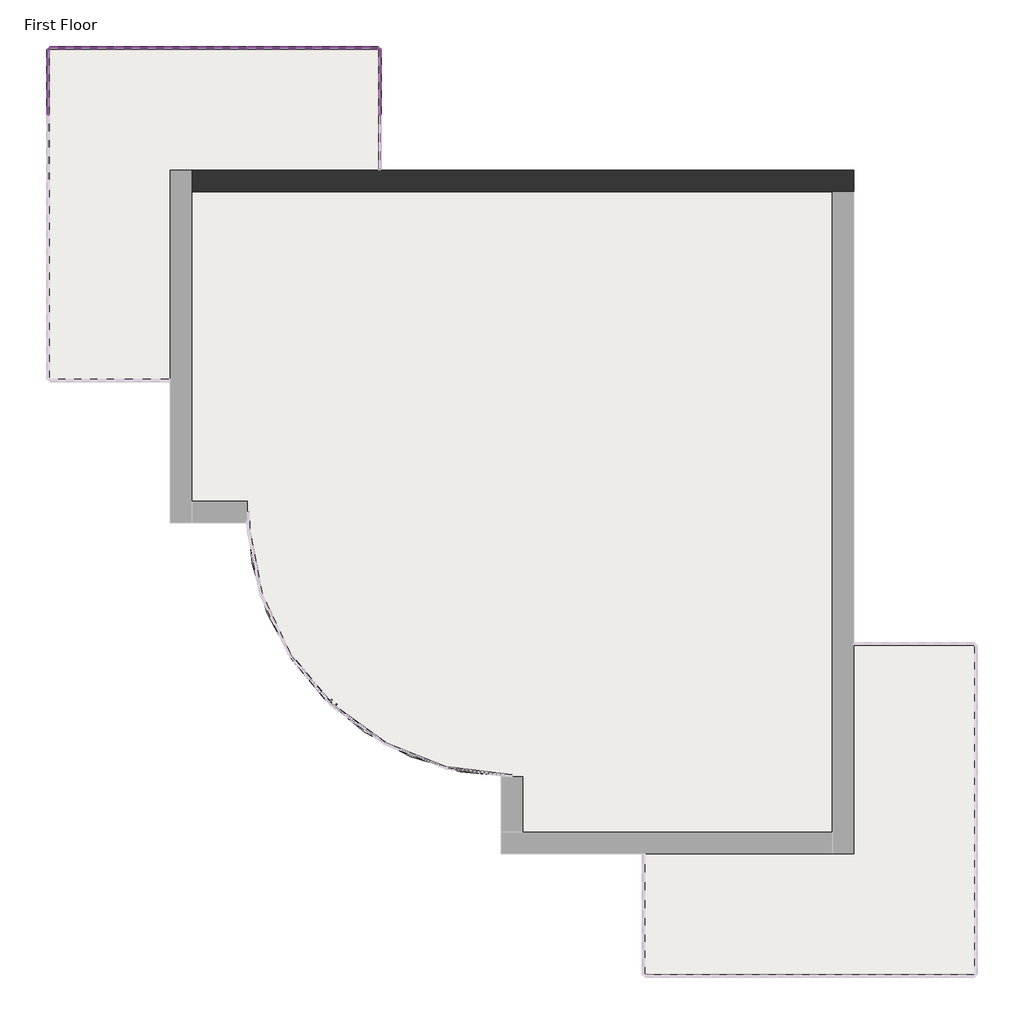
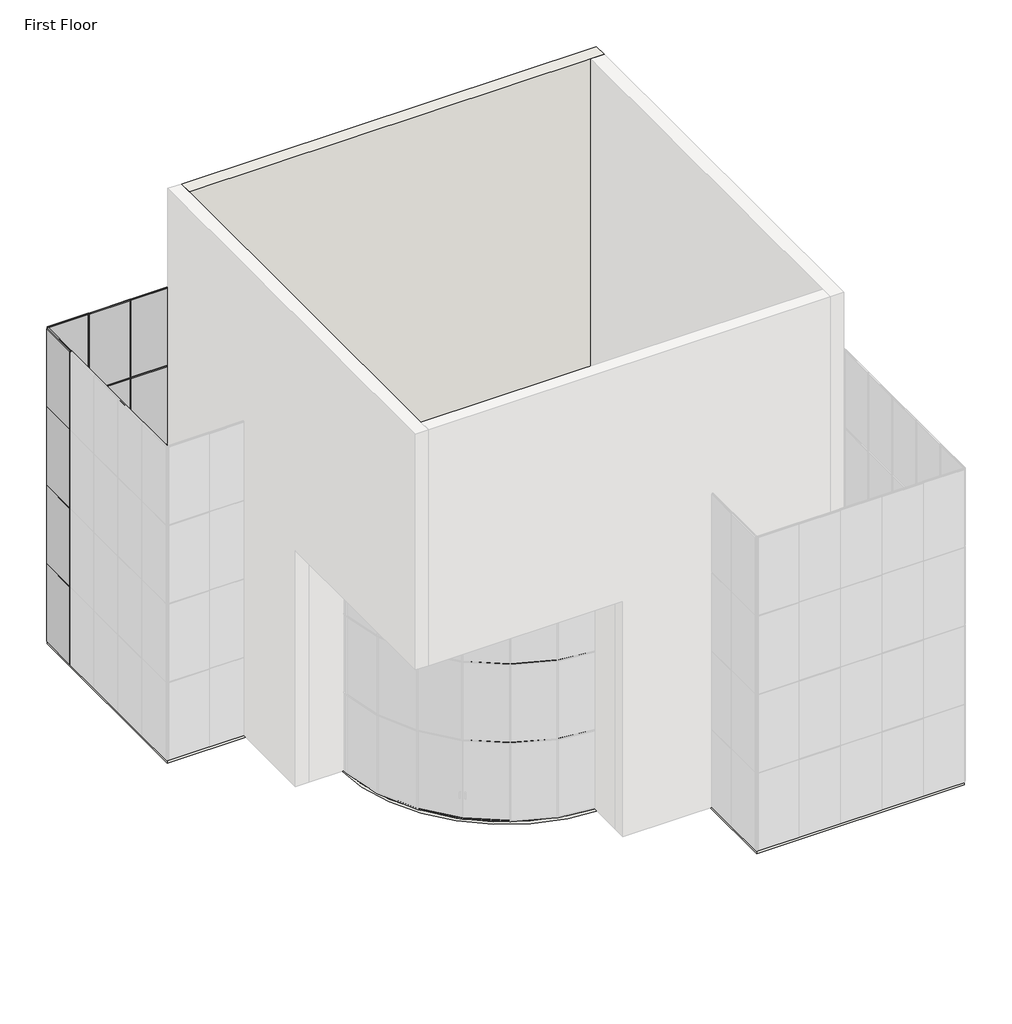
# One storey, part 4 of 4: 84 members, 28 plates, 4 slabs, 1 wall.
"""IFC4 building model written with IfcOpenShell, lengths in millimetres."""

from ifc_helpers import new_model, si_unit, point, frame, frame_2d, origin, place, context, project, spatial, polyline, circle_curve, trimmed, segment, composite_curve, outline, extrude, faceted_brep, transform, mapped, element, save
from components import member_5e617a80, member_74941792, member_cbdb9076, member_7e523723, member_9fd3d903, member_6604d1e0, member_e0356dda, member_be0b070d, system_panel_glazed_9b7d687a, system_panel_glazed_9a901b4a, system_panel_glazed_2d5e1d3d, system_panel_glazed_37964ea6

model = new_model("IFC4")

# Units and contexts
model_context = context("Model", 3, world=origin())
ifc_project = project(units=[si_unit("LENGTHUNIT", "METRE", prefix="MILLI")], contexts=[model_context])

# Site, building, storey
site = spatial("IfcSite", under=ifc_project)
building = spatial("IfcBuilding", under=site)
storey = spatial("IfcBuildingStorey", under=building, Name="First Floor", Elevation=0.0)

# Members
placement = place(None, origin())
member_shape = member_5e617a80(model_context)
element("IfcMember", 1, ObjectType="Rectangular Mullion : 1\" Square", at=placement, inside=storey, context=model_context, shape_type="MappedRepresentation", body=[
    mapped(member_shape, transform((-13139.1056157, 8470.7139224, 3048.0), x_axis=(0.0, 0.0, 1.0), y_axis=(-1.0, 0.0, 0.0), z_axis=(0.0, -1.0, 0.0))),
])
element("IfcMember", 2, ObjectType="Rectangular Mullion : 1\" Square", at=placement, inside=storey, context=model_context, shape_type="MappedRepresentation", body=[
    mapped(member_shape, transform((-13139.1056157, 8470.7139224, 6096.0), x_axis=(0.0, 0.0, 1.0), y_axis=(-1.0, 0.0, 0.0), z_axis=(0.0, -1.0, 0.0))),
])
element("IfcMember", 3, ObjectType="Rectangular Mullion : 1\" Square", at=placement, inside=storey, context=model_context, shape_type="MappedRepresentation", body=[
    mapped(member_shape, transform((-13139.1056157, 8470.7139224, 9144.0), x_axis=(0.0, 0.0, 1.0), y_axis=(-1.0, 0.0, 0.0), z_axis=(0.0, -1.0, 0.0))),
])
element("IfcMember", 4, ObjectType="Rectangular Mullion : 1\" Square", at=placement, inside=storey, context=model_context, shape_type="MappedRepresentation", body=[
    mapped(member_shape, transform((-7030.4056157, 9982.0139224, 3048.0), x_axis=(0.0, 0.0, 1.0), y_axis=(0.0, 1.0, 0.0), z_axis=(-0.9999999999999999, 0.0, 0.0))),
])
element("IfcMember", 5, ObjectType="Rectangular Mullion : 1\" Square", at=placement, inside=storey, context=model_context, shape_type="MappedRepresentation", body=[
    mapped(member_shape, transform((-13113.7056157, 9982.0139224, 3048.0), x_axis=(0.0, 0.0, 1.0), y_axis=(0.0, 1.0, 0.0), z_axis=(-1.0, 0.0, 0.0))),
])
element("IfcMember", 6, ObjectType="Rectangular Mullion : 1\" Square", at=placement, inside=storey, context=model_context, shape_type="MappedRepresentation", body=[
    mapped(member_shape, transform((-7030.4056157, 9982.0139224, 6096.0), x_axis=(0.0, 0.0, 1.0), y_axis=(0.0, 1.0, 0.0), z_axis=(-0.9999999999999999, 0.0, 0.0))),
])
element("IfcMember", 7, ObjectType="Rectangular Mullion : 1\" Square", at=placement, inside=storey, context=model_context, shape_type="MappedRepresentation", body=[
    mapped(member_shape, transform((-13113.7056157, 9982.0139224, 6096.0), x_axis=(0.0, 0.0, 1.0), y_axis=(0.0, 1.0, 0.0), z_axis=(-1.0, 0.0, 0.0))),
])
element("IfcMember", 8, ObjectType="Rectangular Mullion : 1\" Square", at=placement, inside=storey, context=model_context, shape_type="MappedRepresentation", body=[
    mapped(member_shape, transform((-7030.4056157, 9982.0139224, 9144.0), x_axis=(0.0, 0.0, 1.0), y_axis=(0.0, 1.0, 0.0), z_axis=(-0.9999999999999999, 0.0, 0.0))),
])
element("IfcMember", 9, ObjectType="Rectangular Mullion : 1\" Square", at=placement, inside=storey, context=model_context, shape_type="MappedRepresentation", body=[
    mapped(member_shape, transform((-13113.7056157, 9982.0139224, 9144.0), x_axis=(0.0, 0.0, 1.0), y_axis=(0.0, 1.0, 0.0), z_axis=(-1.0, 0.0, 0.0))),
])
member_2_shape = member_74941792(model_context)
element("IfcMember", 10, ObjectType="Rectangular Mullion : 1\" Square", at=placement, inside=storey, context=model_context, shape_type="MappedRepresentation", body=[
    mapped(member_2_shape, transform((-13139.1056157, 8470.7139224, 12192.0), x_axis=(0.0, 0.0, 1.0), y_axis=(-1.0, 0.0, 0.0), z_axis=(0.0, -1.0, 0.0))),
])
element("IfcMember", 11, ObjectType="Rectangular Mullion : 1\" Square", at=placement, inside=storey, context=model_context, shape_type="MappedRepresentation", body=[
    mapped(member_2_shape, transform((-13113.7056157, 9982.0139224, 12192.0), x_axis=(0.0, 0.0, 1.0), y_axis=(0.0, 1.0, 0.0), z_axis=(-1.0, 0.0, 0.0))),
])
element("IfcMember", 12, ObjectType="Rectangular Mullion : 1\" Square", at=placement, inside=storey, context=model_context, shape_type="MappedRepresentation", body=[
    mapped(member_2_shape, transform((-7030.4056157, 9982.0139224, 12192.0), x_axis=(0.0, 0.0, 1.0), y_axis=(0.0, 1.0, 0.0), z_axis=(-0.9999999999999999, 0.0, 0.0))),
])
member_3_shape = member_cbdb9076(model_context)
element("IfcMember", 13, ObjectType="Rectangular Mullion : 1\" Square", at=placement, inside=storey, context=model_context, shape_type="MappedRepresentation", body=[
    mapped(member_3_shape, transform((-13139.1056157, 8458.0139224, 3048.0), x_axis=(0.0, -1.0, 0.0), y_axis=(-1.0, 0.0, 0.0), z_axis=(0.0, 0.0, -1.0))),
])
element("IfcMember", 14, ObjectType="Rectangular Mullion : 1\" Square", at=placement, inside=storey, context=model_context, shape_type="MappedRepresentation", body=[
    mapped(member_3_shape, transform((-13139.1056157, 8458.0139224, 6096.0), x_axis=(0.0, -1.0, 0.0), y_axis=(-1.0, 0.0, 0.0), z_axis=(0.0, 0.0, -1.0))),
])
element("IfcMember", 15, ObjectType="Rectangular Mullion : 1\" Square", at=placement, inside=storey, context=model_context, shape_type="MappedRepresentation", body=[
    mapped(member_3_shape, transform((-8567.1056157, 9982.0139224, 6096.0), x_axis=(-1.0, 0.0, 0.0), y_axis=(0.0, 1.0, 0.0), z_axis=(0.0, 0.0, -1.0))),
])
element("IfcMember", 16, ObjectType="Rectangular Mullion : 1\" Square", at=placement, inside=storey, context=model_context, shape_type="MappedRepresentation", body=[
    mapped(member_3_shape, transform((-10091.1056157, 9982.0139224, 3048.0), x_axis=(-1.0, 0.0, 0.0), y_axis=(0.0, 1.0, 0.0), z_axis=(0.0, 0.0, -1.0))),
])
element("IfcMember", 17, ObjectType="Rectangular Mullion : 1\" Square", at=placement, inside=storey, context=model_context, shape_type="MappedRepresentation", body=[
    mapped(member_3_shape, transform((-10091.1056157, 9982.0139224, 6096.0), x_axis=(-1.0, 0.0, 0.0), y_axis=(0.0, 1.0, 0.0), z_axis=(0.0, 0.0, -1.0))),
])
element("IfcMember", 18, ObjectType="Rectangular Mullion : 1\" Square", at=placement, inside=storey, context=model_context, shape_type="MappedRepresentation", body=[
    mapped(member_3_shape, transform((-11615.1056157, 9982.0139224, 3048.0), x_axis=(-1.0, 0.0, 0.0), y_axis=(0.0, 1.0, 0.0), z_axis=(0.0, 0.0, -1.0))),
])
element("IfcMember", 19, ObjectType="Rectangular Mullion : 1\" Square", at=placement, inside=storey, context=model_context, shape_type="MappedRepresentation", body=[
    mapped(member_3_shape, transform((-11615.1056157, 9982.0139224, 6096.0), x_axis=(-1.0, 0.0, 0.0), y_axis=(0.0, 1.0, 0.0), z_axis=(0.0, 0.0, -1.0))),
])
element("IfcMember", 20, ObjectType="Rectangular Mullion : 1\" Square", at=placement, inside=storey, context=model_context, shape_type="MappedRepresentation", body=[
    mapped(member_3_shape, transform((-7043.1056157, 9982.0139224, 3048.0), x_axis=(-1.0, 0.0, 0.0), y_axis=(0.0, 1.0, 0.0), z_axis=(0.0, 0.0, -1.0))),
])
element("IfcMember", 21, ObjectType="Rectangular Mullion : 1\" Square", at=placement, inside=storey, context=model_context, shape_type="MappedRepresentation", body=[
    mapped(member_3_shape, transform((-7043.1056157, 9982.0139224, 6096.0), x_axis=(-1.0, 0.0, 0.0), y_axis=(0.0, 1.0, 0.0), z_axis=(0.0, 0.0, -1.0))),
])
element("IfcMember", 22, ObjectType="Rectangular Mullion : 1\" Square", at=placement, inside=storey, context=model_context, shape_type="MappedRepresentation", body=[
    mapped(member_3_shape, transform((-8567.1056157, 9982.0139224, 3048.0), x_axis=(-1.0, 0.0, 0.0), y_axis=(0.0, 1.0, 0.0), z_axis=(0.0, 0.0, -1.0))),
])
element("IfcMember", 23, ObjectType="Rectangular Mullion : 1\" Square", at=placement, inside=storey, context=model_context, shape_type="MappedRepresentation", body=[
    mapped(member_3_shape, transform((-5519.1056157, 9978.8389224, 3048.0), x_axis=(0.0, 1.0, 0.0), y_axis=(1.0, 0.0, 0.0), z_axis=(0.0, 0.0, -1.0))),
])
element("IfcMember", 24, ObjectType="Rectangular Mullion : 1\" Square", at=placement, inside=storey, context=model_context, shape_type="MappedRepresentation", body=[
    mapped(member_3_shape, transform((-5519.1056157, 9978.8389224, 6096.0), x_axis=(0.0, 1.0, 0.0), y_axis=(1.0, 0.0, 0.0), z_axis=(0.0, 0.0, -1.0))),
])
element("IfcMember", 25, ObjectType="Rectangular Mullion : 1\" Square", at=placement, inside=storey, context=model_context, shape_type="MappedRepresentation", body=[
    mapped(member_3_shape, transform((-5519.1056157, 8454.8389224, 3048.0), x_axis=(0.0, 1.0, 0.0), y_axis=(1.0, 0.0, 0.0), z_axis=(0.0, 0.0, -1.0))),
])
element("IfcMember", 26, ObjectType="Rectangular Mullion : 1\" Square", at=placement, inside=storey, context=model_context, shape_type="MappedRepresentation", body=[
    mapped(member_3_shape, transform((-5519.1056157, 8454.8389224, 6096.0), x_axis=(0.0, 1.0, 0.0), y_axis=(1.0, 0.0, 0.0), z_axis=(0.0, 0.0, -1.0))),
])
element("IfcMember", 27, ObjectType="Rectangular Mullion : 1\" Square", at=placement, inside=storey, context=model_context, shape_type="MappedRepresentation", body=[
    mapped(member_3_shape, transform((-13139.1056157, 8458.0139224, 9144.0), x_axis=(0.0, -1.0, 0.0), y_axis=(-1.0, 0.0, 0.0), z_axis=(0.0, 0.0, -1.0))),
])
element("IfcMember", 28, ObjectType="Rectangular Mullion : 1\" Square", at=placement, inside=storey, context=model_context, shape_type="MappedRepresentation", body=[
    mapped(member_3_shape, transform((-8567.1056157, 9982.0139224, 9144.0), x_axis=(-1.0, 0.0, 0.0), y_axis=(0.0, 1.0, 0.0), z_axis=(0.0, 0.0, -1.0))),
])
element("IfcMember", 29, ObjectType="Rectangular Mullion : 1\" Square", at=placement, inside=storey, context=model_context, shape_type="MappedRepresentation", body=[
    mapped(member_3_shape, transform((-10091.1056157, 9982.0139224, 9144.0), x_axis=(-1.0, 0.0, 0.0), y_axis=(0.0, 1.0, 0.0), z_axis=(0.0, 0.0, -1.0))),
])
element("IfcMember", 30, ObjectType="Rectangular Mullion : 1\" Square", at=placement, inside=storey, context=model_context, shape_type="MappedRepresentation", body=[
    mapped(member_3_shape, transform((-11615.1056157, 9982.0139224, 9144.0), x_axis=(-1.0, 0.0, 0.0), y_axis=(0.0, 1.0, 0.0), z_axis=(0.0, 0.0, -1.0))),
])
element("IfcMember", 31, ObjectType="Rectangular Mullion : 1\" Square", at=placement, inside=storey, context=model_context, shape_type="MappedRepresentation", body=[
    mapped(member_3_shape, transform((-7043.1056157, 9982.0139224, 9144.0), x_axis=(-1.0, 0.0, 0.0), y_axis=(0.0, 1.0, 0.0), z_axis=(0.0, 0.0, -1.0))),
])
element("IfcMember", 32, ObjectType="Rectangular Mullion : 1\" Square", at=placement, inside=storey, context=model_context, shape_type="MappedRepresentation", body=[
    mapped(member_3_shape, transform((-5519.1056157, 9978.8389224, 9144.0), x_axis=(0.0, 1.0, 0.0), y_axis=(1.0, 0.0, 0.0), z_axis=(0.0, 0.0, -1.0))),
])
element("IfcMember", 33, ObjectType="Rectangular Mullion : 1\" Square", at=placement, inside=storey, context=model_context, shape_type="MappedRepresentation", body=[
    mapped(member_3_shape, transform((-5519.1056157, 8454.8389224, 9144.0), x_axis=(0.0, 1.0, 0.0), y_axis=(1.0, 0.0, 0.0), z_axis=(0.0, 0.0, -1.0))),
])
element("IfcMember", 34, ObjectType="Rectangular Mullion : 1\" Square", at=placement, inside=storey, context=model_context, shape_type="MappedRepresentation", body=[
    mapped(member_3_shape, transform((-13139.1056157, 8458.0139224, 0.0), x_axis=(0.0, -1.0, 0.0), y_axis=(-1.0, 0.0, 0.0), z_axis=(0.0, 0.0, -1.0))),
])
element("IfcMember", 35, ObjectType="Rectangular Mullion : 1\" Square", at=placement, inside=storey, context=model_context, shape_type="MappedRepresentation", body=[
    mapped(member_3_shape, transform((-7043.1056157, 9982.0139224, 0.0), x_axis=(-1.0, 0.0, 0.0), y_axis=(0.0, 1.0, 0.0), z_axis=(0.0, 0.0, -1.0))),
])
element("IfcMember", 36, ObjectType="Rectangular Mullion : 1\" Square", at=placement, inside=storey, context=model_context, shape_type="MappedRepresentation", body=[
    mapped(member_3_shape, transform((-8567.1056157, 9982.0139224, 0.0), x_axis=(-1.0, 0.0, 0.0), y_axis=(0.0, 1.0, 0.0), z_axis=(0.0, 0.0, -1.0))),
])
element("IfcMember", 37, ObjectType="Rectangular Mullion : 1\" Square", at=placement, inside=storey, context=model_context, shape_type="MappedRepresentation", body=[
    mapped(member_3_shape, transform((-10091.1056157, 9982.0139224, 0.0), x_axis=(-1.0, 0.0, 0.0), y_axis=(0.0, 1.0, 0.0), z_axis=(0.0, 0.0, -1.0))),
])
element("IfcMember", 38, ObjectType="Rectangular Mullion : 1\" Square", at=placement, inside=storey, context=model_context, shape_type="MappedRepresentation", body=[
    mapped(member_3_shape, transform((-11615.1056157, 9982.0139224, 0.0), x_axis=(-1.0, 0.0, 0.0), y_axis=(0.0, 1.0, 0.0), z_axis=(0.0, 0.0, -1.0))),
])
element("IfcMember", 39, ObjectType="Rectangular Mullion : 1\" Square", at=placement, inside=storey, context=model_context, shape_type="MappedRepresentation", body=[
    mapped(member_3_shape, transform((-5519.1056157, 9978.8389224, 0.0), x_axis=(0.0, 1.0, 0.0), y_axis=(1.0, 0.0, 0.0), z_axis=(0.0, 0.0, -1.0))),
])
element("IfcMember", 40, ObjectType="Rectangular Mullion : 1\" Square", at=placement, inside=storey, context=model_context, shape_type="MappedRepresentation", body=[
    mapped(member_3_shape, transform((-5519.1056157, 8454.8389224, 0.0), x_axis=(0.0, 1.0, 0.0), y_axis=(1.0, 0.0, 0.0), z_axis=(0.0, 0.0, -1.0))),
])
element("IfcMember", 41, ObjectType="Rectangular Mullion : 1\" Square", at=placement, inside=storey, context=model_context, shape_type="MappedRepresentation", body=[
    mapped(member_2_shape, transform((-13139.1056157, 9956.6139224, 0.0), x_axis=(0.0, 0.0, -1.0), y_axis=(-1.0, 0.0, 0.0), z_axis=(0.0, 1.0, 0.0))),
])
element("IfcMember", 42, ObjectType="Rectangular Mullion : 1\" Square", at=placement, inside=storey, context=model_context, shape_type="MappedRepresentation", body=[
    mapped(member_2_shape, transform((-5544.5056157, 9982.0139224, 0.0), x_axis=(0.0, 0.0, -1.0), y_axis=(0.0, 1.0, 0.0), z_axis=(0.9999999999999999, 0.0, 0.0))),
])
element("IfcMember", 43, ObjectType="Rectangular Mullion : 1\" Square", at=placement, inside=storey, context=model_context, shape_type="MappedRepresentation", body=[
    mapped(member_2_shape, transform((-11627.8056157, 9982.0139224, 0.0), x_axis=(0.0, 0.0, -1.0), y_axis=(0.0, 1.0, 0.0), z_axis=(1.0, 0.0, 0.0))),
])
member_4_shape = member_7e523723(model_context)
element("IfcMember", 44, ObjectType="Rectangular Mullion : 1\" Square", at=placement, inside=storey, context=model_context, shape_type="MappedRepresentation", body=[
    mapped(member_4_shape, transform((-13139.1056157, 9982.0139224, 12192.0), x_axis=(0.0, 1.0, 0.0), y_axis=(-1.0, 0.0, 0.0), z_axis=(0.0, 0.0, 1.0))),
])
element("IfcMember", 45, ObjectType="Rectangular Mullion : 1\" Square", at=placement, inside=storey, context=model_context, shape_type="MappedRepresentation", body=[
    mapped(member_4_shape, transform((-5519.1056157, 9982.0139224, 12192.0), x_axis=(1.0, 0.0, 0.0), y_axis=(0.0, 1.0, 0.0), z_axis=(0.0, 0.0, 1.0))),
])
element("IfcMember", 46, ObjectType="Rectangular Mullion : 1\" Square", at=placement, inside=storey, context=model_context, shape_type="MappedRepresentation", body=[
    mapped(member_4_shape, transform((-13139.1056157, 9982.0139224, 3048.0), x_axis=(-1.0, 0.0, 0.0), y_axis=(0.0, 1.0, 0.0), z_axis=(0.0, 0.0, -1.0))),
])
element("IfcMember", 47, ObjectType="Rectangular Mullion : 1\" Square", at=placement, inside=storey, context=model_context, shape_type="MappedRepresentation", body=[
    mapped(member_4_shape, transform((-13139.1056157, 9982.0139224, 6096.0), x_axis=(-1.0, 0.0, 0.0), y_axis=(0.0, 1.0, 0.0), z_axis=(0.0, 0.0, -1.0))),
])
element("IfcMember", 48, ObjectType="Rectangular Mullion : 1\" Square", at=placement, inside=storey, context=model_context, shape_type="MappedRepresentation", body=[
    mapped(member_4_shape, transform((-13139.1056157, 9982.0139224, 9144.0), x_axis=(-1.0, 0.0, 0.0), y_axis=(0.0, 1.0, 0.0), z_axis=(0.0, 0.0, -1.0))),
])
element("IfcMember", 49, ObjectType="Rectangular Mullion : 1\" Square", at=placement, inside=storey, context=model_context, shape_type="MappedRepresentation", body=[
    mapped(member_4_shape, transform((-13139.1056157, 9982.0139224, 3048.0), x_axis=(0.0, 1.0, 0.0), y_axis=(-1.0, 0.0, 0.0), z_axis=(0.0, 0.0, 1.0))),
])
element("IfcMember", 50, ObjectType="Rectangular Mullion : 1\" Square", at=placement, inside=storey, context=model_context, shape_type="MappedRepresentation", body=[
    mapped(member_4_shape, transform((-5519.1056157, 9982.0139224, 3048.0), x_axis=(1.0, 0.0, 0.0), y_axis=(0.0, 1.0, 0.0), z_axis=(0.0, 0.0, 1.0))),
])
element("IfcMember", 51, ObjectType="Rectangular Mullion : 1\" Square", at=placement, inside=storey, context=model_context, shape_type="MappedRepresentation", body=[
    mapped(member_4_shape, transform((-13139.1056157, 9982.0139224, 6096.0), x_axis=(0.0, 1.0, 0.0), y_axis=(-1.0, 0.0, 0.0), z_axis=(0.0, 0.0, 1.0))),
])
element("IfcMember", 52, ObjectType="Rectangular Mullion : 1\" Square", at=placement, inside=storey, context=model_context, shape_type="MappedRepresentation", body=[
    mapped(member_4_shape, transform((-13139.1056157, 9982.0139224, 9144.0), x_axis=(0.0, 1.0, 0.0), y_axis=(-1.0, 0.0, 0.0), z_axis=(0.0, 0.0, 1.0))),
])
element("IfcMember", 53, ObjectType="Rectangular Mullion : 1\" Square", at=placement, inside=storey, context=model_context, shape_type="MappedRepresentation", body=[
    mapped(member_4_shape, transform((-5519.1056157, 9982.0139224, 6096.0), x_axis=(1.0, 0.0, 0.0), y_axis=(0.0, 1.0, 0.0), z_axis=(0.0, 0.0, 1.0))),
])
element("IfcMember", 54, ObjectType="Rectangular Mullion : 1\" Square", at=placement, inside=storey, context=model_context, shape_type="MappedRepresentation", body=[
    mapped(member_4_shape, transform((-5519.1056157, 9982.0139224, 9144.0), x_axis=(1.0, 0.0, 0.0), y_axis=(0.0, 1.0, 0.0), z_axis=(0.0, 0.0, 1.0))),
])
element("IfcMember", 55, ObjectType="Rectangular Mullion : 1\" Square", at=placement, inside=storey, context=model_context, shape_type="MappedRepresentation", body=[
    mapped(member_4_shape, transform((-13139.1056157, 9982.0139224, 0.0), x_axis=(-1.0, 0.0, 0.0), y_axis=(0.0, 1.0, 0.0), z_axis=(0.0, 0.0, -1.0))),
])
member_5_shape = member_9fd3d903(model_context)
element("IfcMember", 56, ObjectType="Rectangular Mullion : 1\" Square", at=placement, inside=storey, context=model_context, shape_type="MappedRepresentation", body=[
    mapped(member_5_shape, transform((-8554.4056157, 9982.0139224, 3048.0), x_axis=(0.0, 0.0, 1.0), y_axis=(0.0, 1.0, 0.0), z_axis=(-1.0, 0.0, 0.0))),
])
element("IfcMember", 57, ObjectType="Rectangular Mullion : 1\" Square", at=placement, inside=storey, context=model_context, shape_type="MappedRepresentation", body=[
    mapped(member_5_shape, transform((-10078.4056157, 9982.0139224, 3048.0), x_axis=(0.0, 0.0, 1.0), y_axis=(0.0, 1.0, 0.0), z_axis=(-0.9999999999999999, 0.0, 0.0))),
])
element("IfcMember", 58, ObjectType="Rectangular Mullion : 1\" Square", at=placement, inside=storey, context=model_context, shape_type="MappedRepresentation", body=[
    mapped(member_5_shape, transform((-11602.4056157, 9982.0139224, 3048.0), x_axis=(0.0, 0.0, 1.0), y_axis=(0.0, 1.0, 0.0), z_axis=(-1.0, 0.0, 0.0))),
])
element("IfcMember", 59, ObjectType="Rectangular Mullion : 1\" Square", at=placement, inside=storey, context=model_context, shape_type="MappedRepresentation", body=[
    mapped(member_5_shape, transform((-8554.4056157, 9982.0139224, 6096.0), x_axis=(0.0, 0.0, 1.0), y_axis=(0.0, 1.0, 0.0), z_axis=(-1.0, 0.0, 0.0))),
])
element("IfcMember", 60, ObjectType="Rectangular Mullion : 1\" Square", at=placement, inside=storey, context=model_context, shape_type="MappedRepresentation", body=[
    mapped(member_5_shape, transform((-10078.4056157, 9982.0139224, 6096.0), x_axis=(0.0, 0.0, 1.0), y_axis=(0.0, 1.0, 0.0), z_axis=(-0.9999999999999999, 0.0, 0.0))),
])
element("IfcMember", 61, ObjectType="Rectangular Mullion : 1\" Square", at=placement, inside=storey, context=model_context, shape_type="MappedRepresentation", body=[
    mapped(member_5_shape, transform((-11602.4056157, 9982.0139224, 6096.0), x_axis=(0.0, 0.0, 1.0), y_axis=(0.0, 1.0, 0.0), z_axis=(-1.0, 0.0, 0.0))),
])
element("IfcMember", 62, ObjectType="Rectangular Mullion : 1\" Square", at=placement, inside=storey, context=model_context, shape_type="MappedRepresentation", body=[
    mapped(member_5_shape, transform((-8554.4056157, 9982.0139224, 9144.0), x_axis=(0.0, 0.0, 1.0), y_axis=(0.0, 1.0, 0.0), z_axis=(-1.0, 0.0, 0.0))),
])
element("IfcMember", 63, ObjectType="Rectangular Mullion : 1\" Square", at=placement, inside=storey, context=model_context, shape_type="MappedRepresentation", body=[
    mapped(member_5_shape, transform((-10078.4056157, 9982.0139224, 9144.0), x_axis=(0.0, 0.0, 1.0), y_axis=(0.0, 1.0, 0.0), z_axis=(-0.9999999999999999, 0.0, 0.0))),
])
element("IfcMember", 64, ObjectType="Rectangular Mullion : 1\" Square", at=placement, inside=storey, context=model_context, shape_type="MappedRepresentation", body=[
    mapped(member_5_shape, transform((-11602.4056157, 9982.0139224, 9144.0), x_axis=(0.0, 0.0, 1.0), y_axis=(0.0, 1.0, 0.0), z_axis=(-1.0, 0.0, 0.0))),
])
element("IfcMember", 65, ObjectType="Rectangular Mullion : 1\" Square", at=placement, inside=storey, context=model_context, shape_type="MappedRepresentation", body=[
    mapped(member_5_shape, transform((-5519.1056157, 9966.1389224, 3048.0), x_axis=(0.0, 0.0, 1.0), y_axis=(1.0, 0.0, 0.0), z_axis=(0.0, 1.0, 0.0))),
])
element("IfcMember", 66, ObjectType="Rectangular Mullion : 1\" Square", at=placement, inside=storey, context=model_context, shape_type="MappedRepresentation", body=[
    mapped(member_5_shape, transform((-5519.1056157, 9966.1389224, 6096.0), x_axis=(0.0, 0.0, 1.0), y_axis=(1.0, 0.0, 0.0), z_axis=(0.0, 1.0, 0.0))),
])
element("IfcMember", 67, ObjectType="Rectangular Mullion : 1\" Square", at=placement, inside=storey, context=model_context, shape_type="MappedRepresentation", body=[
    mapped(member_5_shape, transform((-5519.1056157, 9966.1389224, 9144.0), x_axis=(0.0, 0.0, 1.0), y_axis=(1.0, 0.0, 0.0), z_axis=(0.0, 1.0, 0.0))),
])
member_6_shape = member_6604d1e0(model_context)
element("IfcMember", 68, ObjectType="Rectangular Mullion : 1\" Square", at=placement, inside=storey, context=model_context, shape_type="MappedRepresentation", body=[
    mapped(member_6_shape, transform((-8554.4056157, 9982.0139224, 12192.0), x_axis=(0.0, 0.0, 1.0), y_axis=(0.0, 1.0, 0.0), z_axis=(-1.0, 0.0, 0.0))),
])
element("IfcMember", 69, ObjectType="Rectangular Mullion : 1\" Square", at=placement, inside=storey, context=model_context, shape_type="MappedRepresentation", body=[
    mapped(member_6_shape, transform((-10078.4056157, 9982.0139224, 12192.0), x_axis=(0.0, 0.0, 1.0), y_axis=(0.0, 1.0, 0.0), z_axis=(-0.9999999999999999, 0.0, 0.0))),
])
element("IfcMember", 70, ObjectType="Rectangular Mullion : 1\" Square", at=placement, inside=storey, context=model_context, shape_type="MappedRepresentation", body=[
    mapped(member_6_shape, transform((-11602.4056157, 9982.0139224, 12192.0), x_axis=(0.0, 0.0, 1.0), y_axis=(0.0, 1.0, 0.0), z_axis=(-1.0, 0.0, 0.0))),
])
element("IfcMember", 71, ObjectType="Rectangular Mullion : 1\" Square", at=placement, inside=storey, context=model_context, shape_type="MappedRepresentation", body=[
    mapped(member_6_shape, transform((-5519.1056157, 9966.1389224, 12192.0), x_axis=(0.0, 0.0, 1.0), y_axis=(1.0, 0.0, 0.0), z_axis=(0.0, 1.0, 0.0))),
])
element("IfcMember", 72, ObjectType="Rectangular Mullion : 1\" Square", at=placement, inside=storey, context=model_context, shape_type="MappedRepresentation", body=[
    mapped(member_6_shape, transform((-13139.1056157, 8445.3139224, 0.0), x_axis=(0.0, 0.0, -1.0), y_axis=(-1.0, 0.0, 0.0), z_axis=(0.0, 1.0, 0.0))),
])
element("IfcMember", 73, ObjectType="Rectangular Mullion : 1\" Square", at=placement, inside=storey, context=model_context, shape_type="MappedRepresentation", body=[
    mapped(member_6_shape, transform((-7055.8056157, 9982.0139224, 0.0), x_axis=(0.0, 0.0, -1.0), y_axis=(0.0, 1.0, 0.0), z_axis=(1.0, 0.0, 0.0))),
])
element("IfcMember", 74, ObjectType="Rectangular Mullion : 1\" Square", at=placement, inside=storey, context=model_context, shape_type="MappedRepresentation", body=[
    mapped(member_6_shape, transform((-8579.8056157, 9982.0139224, 0.0), x_axis=(0.0, 0.0, -1.0), y_axis=(0.0, 1.0, 0.0), z_axis=(0.9999999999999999, 0.0, 0.0))),
])
element("IfcMember", 75, ObjectType="Rectangular Mullion : 1\" Square", at=placement, inside=storey, context=model_context, shape_type="MappedRepresentation", body=[
    mapped(member_6_shape, transform((-10103.8056157, 9982.0139224, 0.0), x_axis=(0.0, 0.0, -1.0), y_axis=(0.0, 1.0, 0.0), z_axis=(1.0, 0.0, 0.0))),
])
element("IfcMember", 76, ObjectType="Rectangular Mullion : 1\" Square", at=placement, inside=storey, context=model_context, shape_type="MappedRepresentation", body=[
    mapped(member_6_shape, transform((-5519.1056157, 8467.5389224, 0.0), x_axis=(0.0, 0.0, -1.0), y_axis=(1.0, 0.0, 0.0), z_axis=(0.0, -1.0, 0.0))),
])
member_7_shape = member_e0356dda(model_context)
element("IfcMember", 77, ObjectType="Rectangular Mullion : 1\" Square", at=placement, inside=storey, context=model_context, shape_type="MappedRepresentation", body=[
    mapped(member_7_shape, transform((-5519.1056157, 8442.1389224, 3048.0), x_axis=(0.0, 0.0, 1.0), y_axis=(1.0, 0.0, 0.0), z_axis=(0.0, 1.0, 0.0))),
])
element("IfcMember", 78, ObjectType="Rectangular Mullion : 1\" Square", at=placement, inside=storey, context=model_context, shape_type="MappedRepresentation", body=[
    mapped(member_7_shape, transform((-5519.1056157, 8442.1389224, 6096.0), x_axis=(0.0, 0.0, 1.0), y_axis=(1.0, 0.0, 0.0), z_axis=(0.0, 1.0, 0.0))),
])
element("IfcMember", 79, ObjectType="Rectangular Mullion : 1\" Square", at=placement, inside=storey, context=model_context, shape_type="MappedRepresentation", body=[
    mapped(member_7_shape, transform((-5519.1056157, 8442.1389224, 9144.0), x_axis=(0.0, 0.0, 1.0), y_axis=(1.0, 0.0, 0.0), z_axis=(0.0, 1.0, 0.0))),
])
member_8_shape = member_be0b070d(model_context)
element("IfcMember", 80, ObjectType="Rectangular Mullion : 1\" Square", at=placement, inside=storey, context=model_context, shape_type="MappedRepresentation", body=[
    mapped(member_8_shape, transform((-5519.1056157, 8442.1389224, 12192.0), x_axis=(0.0, 0.0, 1.0), y_axis=(1.0, 0.0, 0.0), z_axis=(0.0, 1.0, 0.0))),
])
element("IfcMember", 81, ObjectType="Rectangular Mullion : 1\" Square", at=placement, inside=storey, context=model_context, shape_type="MappedRepresentation", body=[
    mapped(member_4_shape, transform((-5519.1056157, 9982.0139224, 3048.0), x_axis=(0.0, 1.0, 0.0), y_axis=(1.0, 0.0, 0.0), z_axis=(0.0, 0.0, -1.0))),
])
element("IfcMember", 82, ObjectType="Rectangular Mullion : 1\" Square", at=placement, inside=storey, context=model_context, shape_type="MappedRepresentation", body=[
    mapped(member_4_shape, transform((-5519.1056157, 9982.0139224, 6096.0), x_axis=(0.0, 1.0, 0.0), y_axis=(1.0, 0.0, 0.0), z_axis=(0.0, 0.0, -1.0))),
])
element("IfcMember", 83, ObjectType="Rectangular Mullion : 1\" Square", at=placement, inside=storey, context=model_context, shape_type="MappedRepresentation", body=[
    mapped(member_4_shape, transform((-5519.1056157, 9982.0139224, 9144.0), x_axis=(0.0, 1.0, 0.0), y_axis=(1.0, 0.0, 0.0), z_axis=(0.0, 0.0, -1.0))),
])
element("IfcMember", 84, ObjectType="Rectangular Mullion : 1\" Square", at=placement, inside=storey, context=model_context, shape_type="MappedRepresentation", body=[
    mapped(member_4_shape, transform((-5519.1056157, 9982.0139224, 0.0), x_axis=(0.0, 1.0, 0.0), y_axis=(1.0, 0.0, 0.0), z_axis=(0.0, 0.0, -1.0))),
])

# Plates
system_panel_glazed_shape = system_panel_glazed_9b7d687a(model_context)
element("IfcPlate", 85, ObjectType="System Panel : Glazed", at=placement, inside=storey, context=model_context, shape_type="MappedRepresentation", body=[
    mapped(system_panel_glazed_shape, transform((-13139.1056157, 9213.6639224, 25.4), x_axis=(0.0, -1.0, 0.0), y_axis=(1.0, 0.0, 0.0), z_axis=(0.0, 0.0, 1.0))),
])
element("IfcPlate", 86, ObjectType="System Panel : Glazed", at=placement, inside=storey, context=model_context, shape_type="MappedRepresentation", body=[
    mapped(system_panel_glazed_shape, transform((-13139.1056157, 9213.6639224, 9156.7), x_axis=(0.0, -1.0, 0.0), y_axis=(1.0, 0.0, 0.0), z_axis=(0.0, 0.0, 1.0))),
])
element("IfcPlate", 87, ObjectType="System Panel : Glazed", at=placement, inside=storey, context=model_context, shape_type="MappedRepresentation", body=[
    mapped(system_panel_glazed_shape, transform((-6287.4556157, 9982.0139224, 25.4), x_axis=(-1.0, 0.0, 0.0), y_axis=(0.0, -1.0, 0.0), z_axis=(0.0, 0.0, 1.0))),
])
element("IfcPlate", 88, ObjectType="System Panel : Glazed", at=placement, inside=storey, context=model_context, shape_type="MappedRepresentation", body=[
    mapped(system_panel_glazed_shape, transform((-12370.7556157, 9982.0139224, 25.4), x_axis=(-1.0, 0.0, 0.0), y_axis=(0.0, -1.0, 0.0), z_axis=(0.0, 0.0, 1.0))),
])
element("IfcPlate", 89, ObjectType="System Panel : Glazed", at=placement, inside=storey, context=model_context, shape_type="MappedRepresentation", body=[
    mapped(system_panel_glazed_shape, transform((-6287.4556157, 9982.0139224, 9156.7), x_axis=(-1.0, 0.0, 0.0), y_axis=(0.0, -1.0, 0.0), z_axis=(0.0, 0.0, 1.0))),
])
element("IfcPlate", 90, ObjectType="System Panel : Glazed", at=placement, inside=storey, context=model_context, shape_type="MappedRepresentation", body=[
    mapped(system_panel_glazed_shape, transform((-12370.7556157, 9982.0139224, 9156.7), x_axis=(-1.0, 0.0, 0.0), y_axis=(0.0, -1.0, 0.0), z_axis=(0.0, 0.0, 1.0))),
])
system_panel_glazed_2_shape = system_panel_glazed_9a901b4a(model_context)
element("IfcPlate", 91, ObjectType="System Panel : Glazed", at=placement, inside=storey, context=model_context, shape_type="MappedRepresentation", body=[
    mapped(system_panel_glazed_2_shape, transform((-13139.1056157, 9213.6639224, 3060.7), x_axis=(0.0, -1.0, 0.0), y_axis=(1.0, 0.0, 0.0), z_axis=(0.0, 0.0, 1.0))),
])
element("IfcPlate", 92, ObjectType="System Panel : Glazed", at=placement, inside=storey, context=model_context, shape_type="MappedRepresentation", body=[
    mapped(system_panel_glazed_2_shape, transform((-13139.1056157, 9213.6639224, 6108.7), x_axis=(0.0, -1.0, 0.0), y_axis=(1.0, 0.0, 0.0), z_axis=(0.0, 0.0, 1.0))),
])
element("IfcPlate", 93, ObjectType="System Panel : Glazed", at=placement, inside=storey, context=model_context, shape_type="MappedRepresentation", body=[
    mapped(system_panel_glazed_2_shape, transform((-6287.4556157, 9982.0139224, 3060.7), x_axis=(-1.0, 0.0, 0.0), y_axis=(0.0, -1.0, 0.0), z_axis=(0.0, 0.0, 1.0))),
])
element("IfcPlate", 94, ObjectType="System Panel : Glazed", at=placement, inside=storey, context=model_context, shape_type="MappedRepresentation", body=[
    mapped(system_panel_glazed_2_shape, transform((-12370.7556157, 9982.0139224, 3060.7), x_axis=(-1.0, 0.0, 0.0), y_axis=(0.0, -1.0, 0.0), z_axis=(0.0, 0.0, 1.0))),
])
element("IfcPlate", 95, ObjectType="System Panel : Glazed", at=placement, inside=storey, context=model_context, shape_type="MappedRepresentation", body=[
    mapped(system_panel_glazed_2_shape, transform((-6287.4556157, 9982.0139224, 6108.7), x_axis=(-1.0, 0.0, 0.0), y_axis=(0.0, -1.0, 0.0), z_axis=(0.0, 0.0, 1.0))),
])
element("IfcPlate", 96, ObjectType="System Panel : Glazed", at=placement, inside=storey, context=model_context, shape_type="MappedRepresentation", body=[
    mapped(system_panel_glazed_2_shape, transform((-12370.7556157, 9982.0139224, 6108.7), x_axis=(-1.0, 0.0, 0.0), y_axis=(0.0, -1.0, 0.0), z_axis=(0.0, 0.0, 1.0))),
])
system_panel_glazed_3_shape = system_panel_glazed_2d5e1d3d(model_context)
element("IfcPlate", 97, ObjectType="System Panel : Glazed", at=placement, inside=storey, context=model_context, shape_type="MappedRepresentation", body=[
    mapped(system_panel_glazed_3_shape, transform((-7805.1056157, 9982.0139224, 25.4), x_axis=(-1.0, 0.0, 0.0), y_axis=(0.0, -1.0, 0.0), z_axis=(0.0, 0.0, 1.0))),
])
element("IfcPlate", 98, ObjectType="System Panel : Glazed", at=placement, inside=storey, context=model_context, shape_type="MappedRepresentation", body=[
    mapped(system_panel_glazed_3_shape, transform((-9329.1056157, 9982.0139224, 25.4), x_axis=(-1.0, 0.0, 0.0), y_axis=(0.0, -1.0, 0.0), z_axis=(0.0, 0.0, 1.0))),
])
element("IfcPlate", 99, ObjectType="System Panel : Glazed", at=placement, inside=storey, context=model_context, shape_type="MappedRepresentation", body=[
    mapped(system_panel_glazed_3_shape, transform((-10853.1056157, 9982.0139224, 25.4), x_axis=(-1.0, 0.0, 0.0), y_axis=(0.0, -1.0, 0.0), z_axis=(0.0, 0.0, 1.0))),
])
element("IfcPlate", 100, ObjectType="System Panel : Glazed", at=placement, inside=storey, context=model_context, shape_type="MappedRepresentation", body=[
    mapped(system_panel_glazed_3_shape, transform((-7805.1056157, 9982.0139224, 9156.7), x_axis=(-1.0, 0.0, 0.0), y_axis=(0.0, -1.0, 0.0), z_axis=(0.0, 0.0, 1.0))),
])
element("IfcPlate", 101, ObjectType="System Panel : Glazed", at=placement, inside=storey, context=model_context, shape_type="MappedRepresentation", body=[
    mapped(system_panel_glazed_3_shape, transform((-9329.1056157, 9982.0139224, 9156.7), x_axis=(-1.0, 0.0, 0.0), y_axis=(0.0, -1.0, 0.0), z_axis=(0.0, 0.0, 1.0))),
])
element("IfcPlate", 102, ObjectType="System Panel : Glazed", at=placement, inside=storey, context=model_context, shape_type="MappedRepresentation", body=[
    mapped(system_panel_glazed_3_shape, transform((-10853.1056157, 9982.0139224, 9156.7), x_axis=(-1.0, 0.0, 0.0), y_axis=(0.0, -1.0, 0.0), z_axis=(0.0, 0.0, 1.0))),
])
element("IfcPlate", 103, ObjectType="System Panel : Glazed", at=placement, inside=storey, context=model_context, shape_type="MappedRepresentation", body=[
    mapped(system_panel_glazed_3_shape, transform((-5519.1056157, 9216.8389224, 25.4), x_axis=(0.0, 1.0, 0.0), y_axis=(-1.0, 0.0, 0.0), z_axis=(0.0, 0.0, 1.0))),
])
element("IfcPlate", 104, ObjectType="System Panel : Glazed", at=placement, inside=storey, context=model_context, shape_type="MappedRepresentation", body=[
    mapped(system_panel_glazed_3_shape, transform((-5519.1056157, 9216.8389224, 9156.7), x_axis=(0.0, 1.0, 0.0), y_axis=(-1.0, 0.0, 0.0), z_axis=(0.0, 0.0, 1.0))),
])
system_panel_glazed_4_shape = system_panel_glazed_37964ea6(model_context)
element("IfcPlate", 105, ObjectType="System Panel : Glazed", at=placement, inside=storey, context=model_context, shape_type="MappedRepresentation", body=[
    mapped(system_panel_glazed_4_shape, transform((-7805.1056157, 9982.0139224, 3060.7), x_axis=(-1.0, 0.0, 0.0), y_axis=(0.0, -1.0, 0.0), z_axis=(0.0, 0.0, 1.0))),
])
element("IfcPlate", 106, ObjectType="System Panel : Glazed", at=placement, inside=storey, context=model_context, shape_type="MappedRepresentation", body=[
    mapped(system_panel_glazed_4_shape, transform((-9329.1056157, 9982.0139224, 3060.7), x_axis=(-1.0, 0.0, 0.0), y_axis=(0.0, -1.0, 0.0), z_axis=(0.0, 0.0, 1.0))),
])
element("IfcPlate", 107, ObjectType="System Panel : Glazed", at=placement, inside=storey, context=model_context, shape_type="MappedRepresentation", body=[
    mapped(system_panel_glazed_4_shape, transform((-10853.1056157, 9982.0139224, 3060.7), x_axis=(-1.0, 0.0, 0.0), y_axis=(0.0, -1.0, 0.0), z_axis=(0.0, 0.0, 1.0))),
])
element("IfcPlate", 108, ObjectType="System Panel : Glazed", at=placement, inside=storey, context=model_context, shape_type="MappedRepresentation", body=[
    mapped(system_panel_glazed_4_shape, transform((-7805.1056157, 9982.0139224, 6108.7), x_axis=(-1.0, 0.0, 0.0), y_axis=(0.0, -1.0, 0.0), z_axis=(0.0, 0.0, 1.0))),
])
element("IfcPlate", 109, ObjectType="System Panel : Glazed", at=placement, inside=storey, context=model_context, shape_type="MappedRepresentation", body=[
    mapped(system_panel_glazed_4_shape, transform((-9329.1056157, 9982.0139224, 6108.7), x_axis=(-1.0, 0.0, 0.0), y_axis=(0.0, -1.0, 0.0), z_axis=(0.0, 0.0, 1.0))),
])
element("IfcPlate", 110, ObjectType="System Panel : Glazed", at=placement, inside=storey, context=model_context, shape_type="MappedRepresentation", body=[
    mapped(system_panel_glazed_4_shape, transform((-10853.1056157, 9982.0139224, 6108.7), x_axis=(-1.0, 0.0, 0.0), y_axis=(0.0, -1.0, 0.0), z_axis=(0.0, 0.0, 1.0))),
])
element("IfcPlate", 111, ObjectType="System Panel : Glazed", at=placement, inside=storey, context=model_context, shape_type="MappedRepresentation", body=[
    mapped(system_panel_glazed_4_shape, transform((-5519.1056157, 9216.8389224, 3060.7), x_axis=(0.0, 1.0, 0.0), y_axis=(-1.0, 0.0, 0.0), z_axis=(0.0, 0.0, 1.0))),
])
element("IfcPlate", 112, ObjectType="System Panel : Glazed", at=placement, inside=storey, context=model_context, shape_type="MappedRepresentation", body=[
    mapped(system_panel_glazed_4_shape, transform((-5519.1056157, 9216.8389224, 6108.7), x_axis=(0.0, 1.0, 0.0), y_axis=(-1.0, 0.0, 0.0), z_axis=(0.0, 0.0, 1.0))),
])

# Slabs
element("IfcSlab", 113, ObjectType="LW Concrete on Metal Deck", at=placement, inside=storey, context=model_context, shape_type="SweptSolid", body=[
    extrude(outline(composite_curve([segment(polyline([(5148.8943843, 6934.0139224), (5148.8943843, -8305.9860776), (-2471.1056157, -8305.9860776), (-2471.1056157, -6781.9860776)]), True, "CONTINUOUS"), segment(trimmed(circle_curve(frame_2d((-2471.1056157, -685.9860776)), 6096.0), [point((-2471.1056157, -6781.9860776))], [point((-8567.1056157, -685.9860776))], False, "CARTESIAN"), True, "CONTINUOUS"), segment(polyline([(-8567.1056157, -685.9860776), (-10091.1056157, -685.9860776), (-10091.1056157, 6934.0139224), (5148.8943843, 6934.0139224)]), True, "CONTINUOUS")], self_intersect=False)), frame((0.0, 0.0, -104.775), z_axis=(0.0, 0.0, 1.0), x_axis=(1.0, 0.0, 0.0)), (0.0, 0.0, 1.0), 104.775),
])
element("IfcSlab", 114, ObjectType="LW Concrete on Metal Deck", at=placement, inside=storey, context=model_context, shape_type="SweptSolid", body=[
    extrude(outline(polyline([(8196.8943843, -3733.9860776), (8196.8943843, -11353.9860776), (576.8943843, -11353.9860776), (576.8943843, -8305.9860776), (5148.8943843, -8305.9860776), (5148.8943843, -3733.9860776), (8196.8943843, -3733.9860776)])), frame((0.0, 0.0, -104.775), z_axis=(0.0, 0.0, 1.0), x_axis=(1.0, 0.0, 0.0)), (0.0, 0.0, 1.0), 104.775),
    extrude(outline(polyline([(-5519.1056157, 9982.0139224), (-5519.1056157, 6934.0139224), (-10091.1056157, 6934.0139224), (-10091.1056157, 2362.0139224), (-13139.1056157, 2362.0139224), (-13139.1056157, 9982.0139224), (-5519.1056157, 9982.0139224)])), frame((0.0, 0.0, -104.775), z_axis=(0.0, 0.0, 1.0), x_axis=(1.0, 0.0, 0.0)), (0.0, 0.0, 1.0), 104.775),
])
element("IfcSlab", 115, ObjectType="LW Concrete on Metal Deck", at=placement, inside=storey, context=model_context, shape_type="SweptSolid", body=[
    extrude(outline(composite_curve([segment(polyline([(5148.8943843, 6934.0139224), (5148.8943843, -8305.9860776), (-2471.1056157, -8305.9860776), (-2471.1056157, -6781.9860776)]), True, "CONTINUOUS"), segment(trimmed(circle_curve(frame_2d((-2471.1056157, -685.9860776)), 6096.0), [point((-2471.1056157, -6781.9860776))], [point((-8567.1056157, -685.9860776))], False, "CARTESIAN"), True, "CONTINUOUS"), segment(polyline([(-8567.1056157, -685.9860776), (-10091.1056157, -685.9860776), (-10091.1056157, 6934.0139224), (5148.8943843, 6934.0139224)]), True, "CONTINUOUS")], self_intersect=False)), frame((0.0, 0.0, -104.775), z_axis=(0.0, 0.0, 1.0), x_axis=(1.0, 0.0, 0.0)), (0.0, 0.0, 1.0), 104.775),
])
element("IfcSlab", 116, ObjectType="LW Concrete on Metal Deck", at=placement, inside=storey, context=model_context, shape_type="SweptSolid", body=[
    extrude(outline(polyline([(8196.8943843, -3733.9860776), (8196.8943843, -11353.9860776), (576.8943843, -11353.9860776), (576.8943843, -8305.9860776), (5148.8943843, -8305.9860776), (5148.8943843, -3733.9860776), (8196.8943843, -3733.9860776)])), frame((0.0, 0.0, -104.775), z_axis=(0.0, 0.0, 1.0), x_axis=(1.0, 0.0, 0.0)), (0.0, 0.0, 1.0), 104.775),
    extrude(outline(polyline([(-5519.1056157, 9982.0139224), (-5519.1056157, 6934.0139224), (-10091.1056157, 6934.0139224), (-10091.1056157, 2362.0139224), (-13139.1056157, 2362.0139224), (-13139.1056157, 9982.0139224), (-5519.1056157, 9982.0139224)])), frame((0.0, 0.0, -104.775), z_axis=(0.0, 0.0, 1.0), x_axis=(1.0, 0.0, 0.0)), (0.0, 0.0, 1.0), 104.775),
])

# Wall
element("IfcWall", 117, ObjectType="Exterior - Brick on CMU", at=placement, inside=storey, context=model_context, shape_type="Brep", body=[
    faceted_brep([(5393.3693843, 7178.4889224, 0.0), (-9840.2806157, 7178.4889224, 0.0), (-9840.2806157, 7178.4889224, 18288.0), (5393.3693843, 7178.4889224, 18288.0), (5393.3693843, 6683.1889224, 0.0), (5393.3693843, 6683.1889224, 18288.0), (4898.0693843, 6683.1889224, 18288.0), (-9840.2806157, 6683.1889224, 18288.0), (-9840.2806157, 6683.1889224, 0.0), (4898.0693843, 6683.1889224, 0.0)], [[[0, 1, 2, 3]], [[4, 5, 6, 7, 8, 9]], [[1, 0, 4, 9, 8]], [[3, 2, 7, 6, 5]], [[0, 3, 5, 4]], [[2, 1, 8, 7]]]),
])

save(model, "model.ifc")
